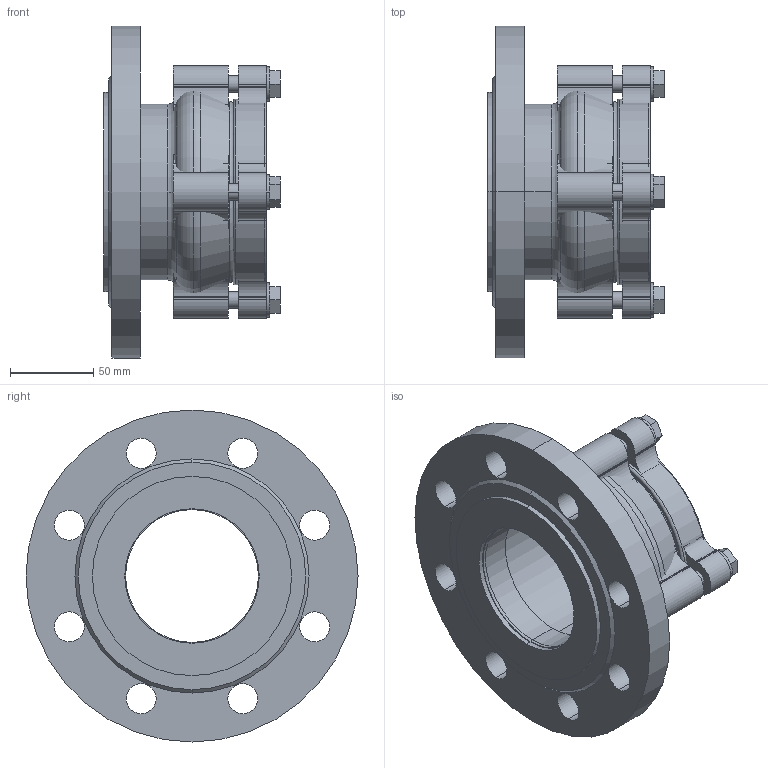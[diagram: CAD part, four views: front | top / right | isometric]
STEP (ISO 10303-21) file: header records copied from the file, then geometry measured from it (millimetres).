
FILE_DESCRIPTION(('STEP AP214'),'1');
FILE_NAME('U:/VDI-Daten/7200-(0400)/7200_PN16_DN80_90.STP','2012-06-15T09:25:02',(' '),(' '),'Spatial InterOp 3D',' ',' ');
FILE_SCHEMA(('automotive_design'));
Length unit declared in the file: millimetre
Products named in the file (26): 3D-Objekt
Bounding box: 106.4 x 200 x 200 mm (x, y, z)
Volume: 888525.4 mm3; surface area: 266020.2 mm2
Topology: 26 solids, 26 shells, 230 faces, 530 edges, 352 vertices
Faces by surface type: cylinder 120, plane 92, torus 12, cone 6
Entity records: 9142 total; most frequent: DIRECTION 1326, CARTESIAN_POINT 1138, ORIENTED_EDGE 1060, AXIS2_PLACEMENT_3D 540, EDGE_CURVE 530, VERTEX_POINT 352, CIRCLE 284, EDGE_LOOP 258
